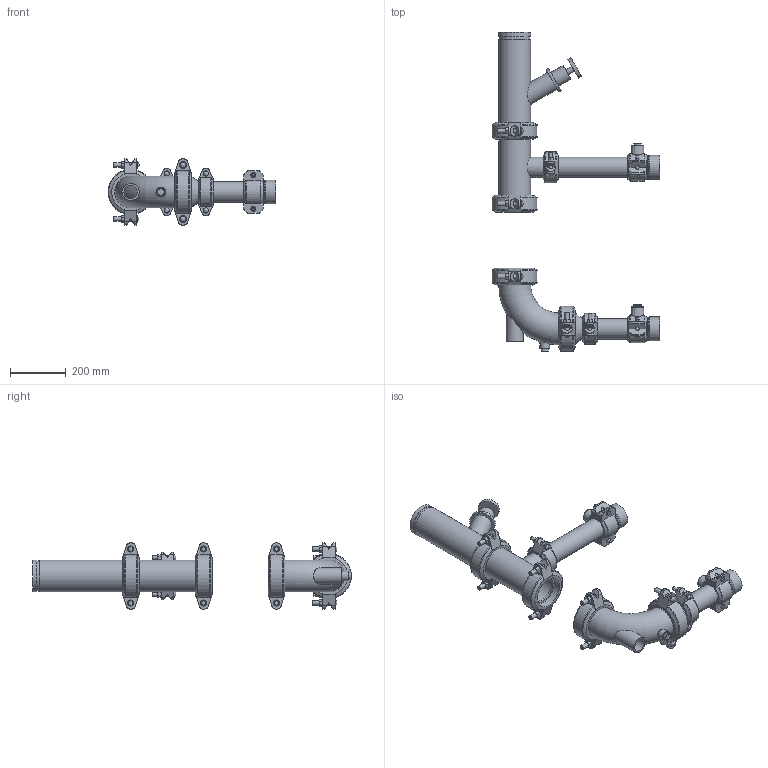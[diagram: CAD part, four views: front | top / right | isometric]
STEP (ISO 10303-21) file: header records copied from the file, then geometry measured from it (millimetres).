
FILE_DESCRIPTION(/* description */ ('VIC RVI DOUBLE COIL AHU DROP LOW PROFILE SERIES 385J (OGSxFPT)','CAx-IF Rec.Pracs.---Representation and Presentation of Product Manufacturing Information (PMI)---4.0---2014-10-13'),/* implementation_level */ '2;1');
FILE_NAME(/* name */ 'C:\Users\kkamble\AppData\Roaming\Autodesk\ApplicationPlugins\Victaulic.Temp\A836\Victaulic_IPS_RVI_Double Coil_Low Profile_Series 385J (OGSxFPT)_04.0x02.5 (100x65).stp',/* time_stamp */ '2021-03-17T12:26:26+06:00',/* author */ ('Vjadhav'),/* organization */ ('Victaulic'),/* preprocessor_version */ 'ST-DEVELOPER v17.2',/* originating_system */ 'Autodesk Inventor 2019',/* authorisation */ '');
FILE_SCHEMA (('AP242_MANAGED_MODEL_BASED_3D_ENGINEERING_MIM_LF { 1 0 10303 442 1 1 4 }'));
Length unit declared in the file: inch
Products named in the file (11): 385J-04.0x02.5; Pipe_1-02.5; 050-04.0x02.5; 025-04.0x02.5; 177N-04.0; 177N-02.5; Pipe_(11 1/8")-02.5; 072-02.5x0.75; 080-02.5; 100G-04.0; 789-04.0
Assembly tree (16 placements, depth 2):
  385J-04.0x02.5
    080-02.5  x2
    072-02.5x0.75  x2
    Pipe_1-02.5
    177N-02.5  x2
    050-04.0x02.5
    177N-04.0  x4
    025-04.0x02.5
    Pipe_(11 1/8")-02.5
    100G-04.0
    789-04.0
Bounding box: 601.43 x 1143.76 x 237.12 mm (x, y, z)
Volume: 7956146.7 mm3; surface area: 1721227.7 mm2
Topology: 16 solids, 16 shells, 864 faces, 2355 edges, 1578 vertices
Faces by surface type: plane 491, cylinder 273, torus 44, cone 38, sphere 12, bspline 6
Full cylindrical faces by diameter (mm): 10.16 x8, 12.7 x4, 14.605 x4, 15.875 x8, 17.78 x4, 19.05 x5, 20.93 x3, 23.495 x8, 26.67 x4, 34.29 x1, 48.26 x1, 57.15 x1, 60.325 x2, 60.96 x1, 62.713 x6, 69.088 x8, 69.85 x1, 73.025 x22, 76.2 x1, 85.725 x2, 92.05 x1, 101.6 x4, 102.26 x5, 110.084 x7, 114.3 x18
Entity records: 14412 total; most frequent: CARTESIAN_POINT 3030, DIRECTION 2343, ORIENTED_EDGE 2142, EDGE_CURVE 1071, AXIS2_PLACEMENT_3D 920, VERTEX_POINT 732, LINE 503, VECTOR 503
